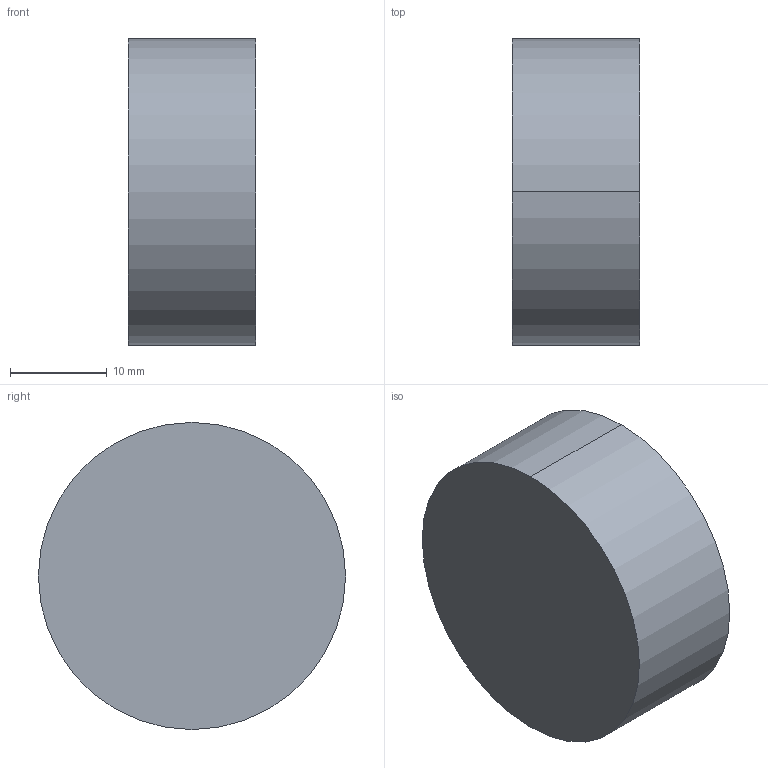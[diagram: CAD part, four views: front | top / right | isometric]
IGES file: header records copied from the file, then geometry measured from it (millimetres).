
Start section: SolidWorks IGES file using analytic representation for surfaces
Global section: file name: S:\Product Visuals\front-out-plug\60l-front-out-plug.IGS; native system: SolidWorks 2012; preprocessor: SolidWorks 2012; author: Rachel.Dressel; date: 121129.085941; units: inch
Bounding box: 13.21 x 31.75 x 31.75 mm (x, y, z)
Volume: 10246.3 mm3; surface area: 3160.3 mm2
Topology: 1 solids, 1 shells, 16 faces, 30 edges, 20 vertices
Faces by surface type: revolution 10, plane 6
